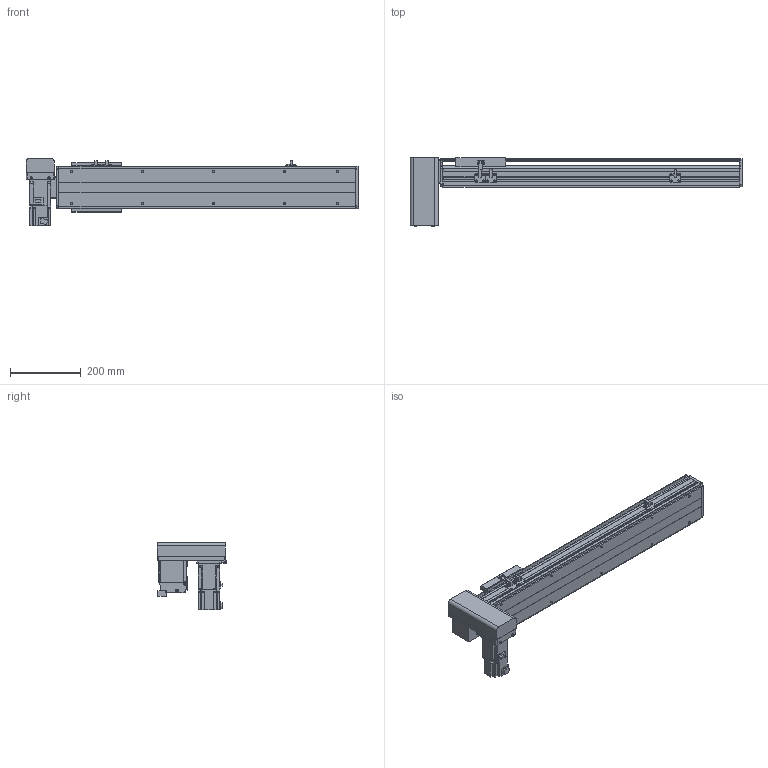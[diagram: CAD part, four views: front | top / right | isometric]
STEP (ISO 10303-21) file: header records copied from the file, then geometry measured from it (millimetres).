
FILE_DESCRIPTION(/* description */ ('STEP AP214'),/* implementation_level */ '2;1');
FILE_NAME(/* name */ 'PBS120-P40-S550-RD-T40-C1-N(0)',/* time_stamp */ '2022-06-06T02:40:54+02:00',/* author */ ('License CC BY-ND 4.0'),/* organization */ ('CADENAS'),/* preprocessor_version */ 'ST-DEVELOPER v18.102',/* originating_system */ 'PARTsolutions',/* authorisation */ ' ');
FILE_SCHEMA (('AUTOMOTIVE_DESIGN {1 0 10303 214 3 1 1}'));
Length unit declared in the file: millimetre
Products named in the file (7): PBS120-P40-S550-RD-T40-C1-N(0); PBS120_sensor; PBS120_plant; PBS120_sliser; T40-p1; PBS120T-RD_motors; PBS120-S550()_body
Assembly tree (8 placements, depth 2):
  PBS120-P40-S550-RD-T40-C1-N(0)
    PBS120_sensor  x3
    PBS120_plant
    PBS120_sliser
    T40-p1
    PBS120T-RD_motors
    PBS120-S550()_body
Bounding box: 936 x 196 x 189.7 mm (x, y, z)
Volume: 4496567.9 mm3; surface area: 840564.5 mm2
Topology: 8 solids, 8 shells, 810 faces, 2126 edges, 1369 vertices
Faces by surface type: plane 543, cylinder 223, cone 42, torus 2
Full cylindrical faces by diameter (mm): 2.459 x6, 3.242 x4, 4 x2, 4.134 x4, 4.5 x10, 4.917 x14, 5.5 x11, 6 x2, 6.6 x1, 7 x2, 8.5 x4, 9 x4, 12 x1, 14 x1, 30 x2, 40 x1, 50 x2
Entity records: 21234 total; most frequent: DIRECTION 3668, CARTESIAN_POINT 3623, ORIENTED_EDGE 3466, EDGE_CURVE 1733, LINE 1228, VECTOR 1228, AXIS2_PLACEMENT_3D 1220, VERTEX_POINT 1175
